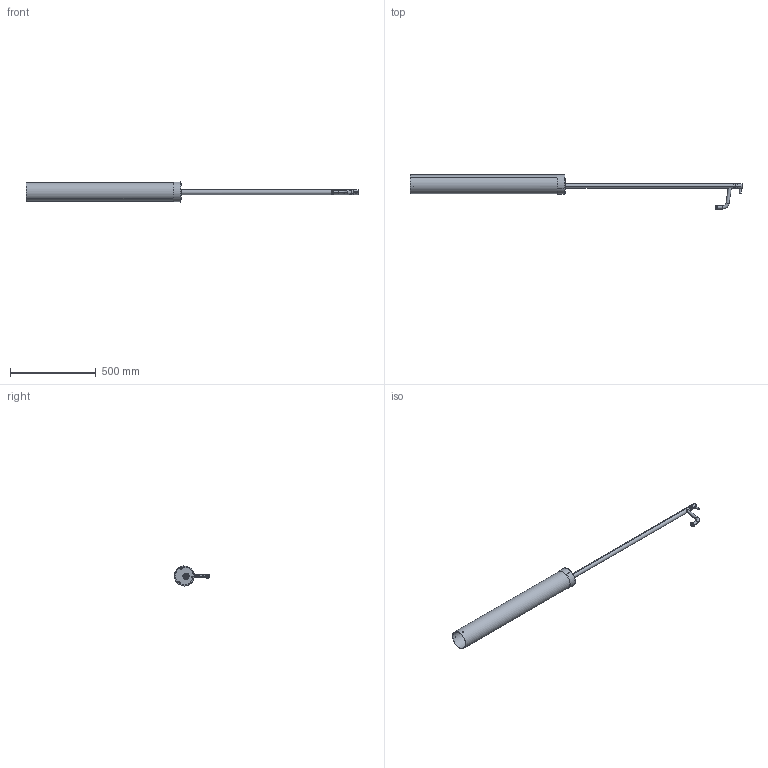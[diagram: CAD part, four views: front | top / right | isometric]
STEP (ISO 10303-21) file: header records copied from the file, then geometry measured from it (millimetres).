
FILE_DESCRIPTION (( 'STEP AP214' ), '1' );
FILE_NAME ('4275 PRO fritstående arbejdsvandpost.STEP', '2023-01-05T09:27:42', ( '' ), ( '' ), 'SwSTEP 2.0', 'SolidWorks 2022', '' );
FILE_SCHEMA (( 'AUTOMOTIVE_DESIGN' ));
Length unit declared in the file: millimetre
Products named in the file (31): U 4275-1 Haneudløb; 4275 PRO fritstående arbejdsvandpost; U 4275-13 Indvendig loddesamling; 9,1x1,6 O-ring; 18x2 O-ring; U 4275-7 Spindel; U 4275-12 Spindelsamling; Ø10x1x1535 Kobberrør; U 4040-19 Stålrør Ø110.2x2; U 2070-5 Håndtag; U 4275-4 Ventil; U 2010-19 Styrestift; U 4012-12 Dæksel; U 2070-2 Håndtag; U 4041-3 Loddestuds Ø10; U 4275-5 Ventilhus; 12x2 O-ring; U 4275-2 Overrør; 20x2 O-ring; U 7016-1 Ø110 Brønd 900mm; U 4275-6 Spindelhus; U 2010-24 Stift; U 2070-1 Greb; U 4275-3 Gevindstykke; U 2010-7 Låsering; DIN965 M6x12 US; Pinolskrue M6x5; Pinolskrue M6x6; U 4275-11 Stigrør svejsetegning; 8x2 O-ring shore70; 8x2 O-ring shore90
Assembly tree (34 placements, depth 3):
  4275 PRO fritstående arbejdsvandpost
    U 4275-11 Stigrør svejsetegning
      U 4275-2 Overrør
      U 4275-1 Haneudløb
      U 4275-3 Gevindstykke
    U 4275-5 Ventilhus
    U 4275-12 Spindelsamling
      U 4275-7 Spindel
      U 4275-6 Spindelhus
      U 2010-19 Styrestift
      20x2 O-ring
      18x2 O-ring
      12x2 O-ring
      9,1x1,6 O-ring
    U 4275-13 Indvendig loddesamling
      U 4275-4 Ventil
      Ø10x1x1535 Kobberrør
      U 4041-3 Loddestuds Ø10
      8x2 O-ring shore90
      8x2 O-ring shore70  x2
      U 2010-24 Stift
    20x2 O-ring
    U 2070-5 Håndtag
      U 2070-1 Greb
      U 2070-2 Håndtag
      Pinolskrue M6x6
    Pinolskrue M6x5
    DIN965 M6x12 US  x3
    U 7016-1 Ø110 Brønd 900mm
    U 4040-19 Stålrør Ø110.2x2
    U 4012-12 Dæksel
    U 2010-7 Låsering
Bounding box: 1938 x 206.46 x 116.91 mm (x, y, z)
Volume: 1508676.8 mm3; surface area: 1043239.5 mm2
Topology: 30 solids, 30 shells, 513 faces, 1160 edges, 713 vertices
Faces by surface type: cylinder 224, plane 159, cone 89, torus 38, bspline 3
Entity records: 16379 total; most frequent: CARTESIAN_POINT 4309, DIRECTION 2500, ORIENTED_EDGE 2076, AXIS2_PLACEMENT_3D 1042, EDGE_CURVE 1038, VERTEX_POINT 641, EDGE_LOOP 555, CIRCLE 541
